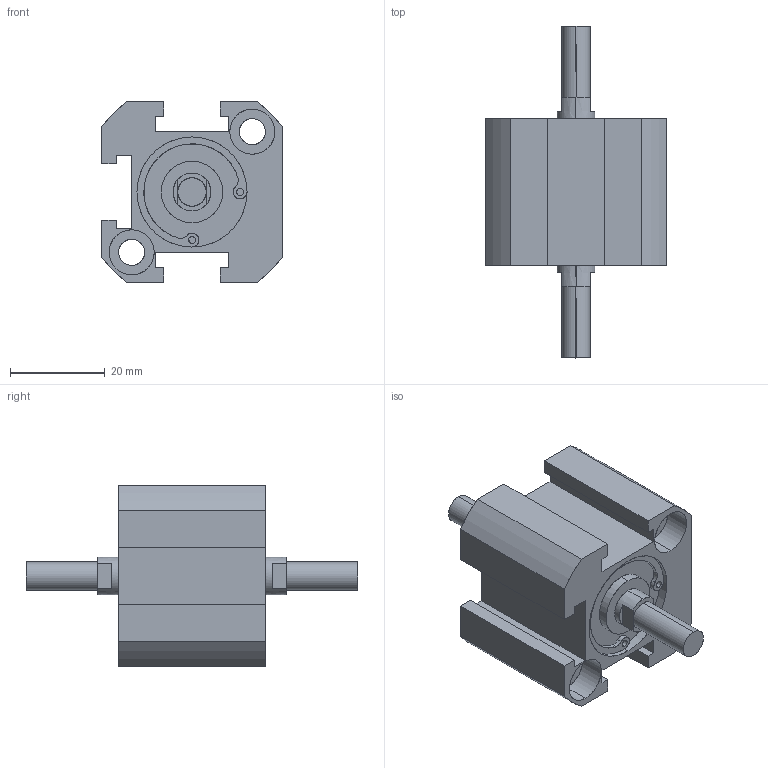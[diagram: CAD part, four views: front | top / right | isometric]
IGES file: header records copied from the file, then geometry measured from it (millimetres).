
Start section: SolidWorks IGES file using analytic representation for surfaces
Global section: file name: C:\Users\Toshiba\Desktop\XC#M7-20-10.IGS; native system: SolidWorks 2014; preprocessor: SolidWorks 2014; author: Toshiba; date: 160523.165440; units: millimetre
Bounding box: 38 x 70 x 38 mm (x, y, z)
Surface area: 11277.3 mm2 (no closed solid volume)
Topology: 0 solids, 0 shells, 120 faces, 1860 edges, 1856 vertices
Faces by surface type: revolution 62, bspline 58
